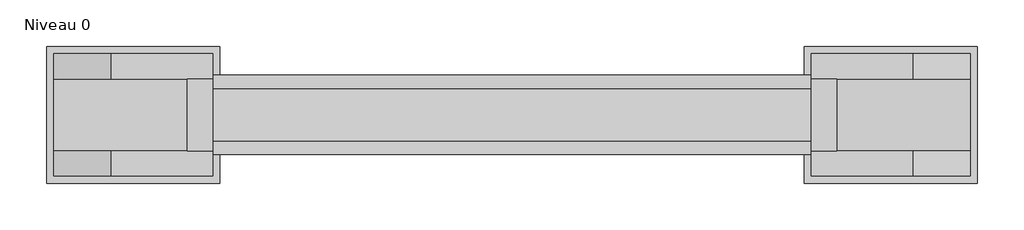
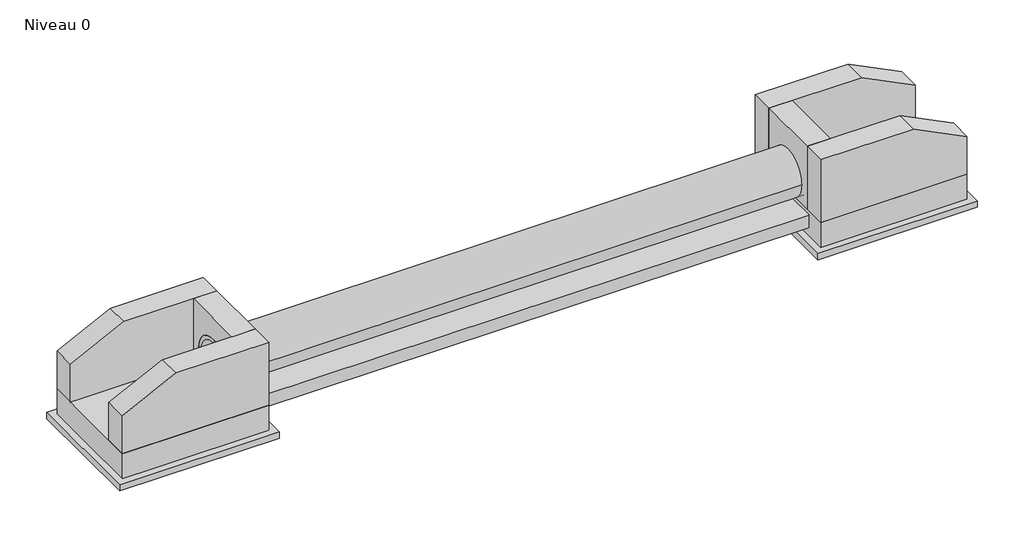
# One storey: 8 proxies.
"""IFC4 building model written with IfcOpenShell, lengths in millimetres."""

from ifc_helpers import new_model, si_unit, point, frame, frame_2d, origin, place, context, project, spatial, polyline, circle_curve, trimmed, segment, composite_curve, outline, extrude, transform, mapped, element, save
from ifc_brep_helpers import plane_surface, revolved_surface, advanced_brep
from components import generic_models_fbd42da7, generic_models_a69fad3e, generic_models_12d6a13c, generic_models_5fac37e3, generic_models_9c1f0b10

model = new_model("IFC4")

# Units and contexts
model_context = context("Model", 3, world=origin())
ifc_project = project(units=[si_unit("LENGTHUNIT", "METRE", prefix="MILLI")], contexts=[model_context])

# Site, building, storey
site = spatial("IfcSite", under=ifc_project)
building = spatial("IfcBuilding", under=site)
storey = spatial("IfcBuildingStorey", under=building, Name="Niveau 0", Elevation=0.0)

# Proxies
placement = place(None, origin())
element("IfcBuildingElementProxy", 1, Name="Modèles génériques 1 : Modèles génériques 1", ObjectType="Modèles génériques 1 : Modèles génériques 1", at=placement, inside=storey, context=model_context, shape_type="SweptSolid", body=[
    extrude(outline(composite_curve([segment(trimmed(circle_curve(frame_2d((2653.736413, 300.0)), 360.0), [point((2293.736413, 300.0))], [point((3013.736413, 300.0))], False, "CARTESIAN"), True, "CONTINUOUS"), segment(trimmed(circle_curve(frame_2d((2653.736413, 300.0)), 360.0), [point((3013.736413, 300.0))], [point((2293.736413, 300.0))], False, "CARTESIAN"), True, "CONTINUOUS")], self_intersect=False), holes=[composite_curve([segment(trimmed(circle_curve(frame_2d((2653.736413, 300.0)), 300.0), [point((2353.736413, 300.0))], [point((2953.736413, 300.0))], True, "CARTESIAN"), True, "CONTINUOUS"), segment(trimmed(circle_curve(frame_2d((2653.736413, 300.0)), 300.0), [point((2953.736413, 300.0))], [point((2353.736413, 300.0))], True, "CARTESIAN"), True, "CONTINUOUS")], self_intersect=False)]), frame((-7578.7993027, 0.0, 0.0), z_axis=(1.0, 0.0, 0.0), x_axis=(0.0, 1.0, 0.0)), (0.0, 0.0, 1.0), 9000.0),
])
element("IfcBuildingElementProxy", 2, Name="Modèles génériques 2 : Modèles génériques 2", ObjectType="Modèles génériques 2 : Modèles génériques 2", at=placement, inside=storey, context=model_context, shape_type="AdvancedBrep", body=[
    advanced_brep(
    [(-7228.7993027, 3503.736413, 0.0), (-9428.7993027, 3503.736413, 0.0), (-9428.7993027, 1803.736413, 0.0), (-7228.7993027, 1803.736413, 0.0), (-7228.7993027, 2454.7389256, 0.0), (-7578.7993027, 2454.7389256, 0.0), (-7578.7993027, 2653.736413, 0.0), (-7578.7993027, 2852.7339004, 0.0), (-7228.7993027, 2852.7339004, 0.0), (-7228.7993027, 3503.736413, -400.0), (-7228.7993027, 1803.736413, -400.0), (-9428.7993027, 1803.736413, -400.0), (-9428.7993027, 3503.736413, -400.0)],
    [
        (0, 1),
        (1, 2),
        (2, 3),
        (3, 4),
        (4, 5),
        (5, 6),
        (6, 7),
        (7, 8),
        (8, 0),
        (9, 10),
        (10, 11),
        (11, 12),
        (12, 9),
        (0, 9),
        (12, 1),
        (11, 2),
        (10, 3),
        (8, 4, circle_curve(frame((-7228.7993027, 2653.736413, 300.0), z_axis=(-1.0, 0.0, 0.0), x_axis=(0.0, 1.0, 0.0)), 360.0)),
        (5, 7, circle_curve(frame((-7578.7993027, 2653.736413, 300.0), z_axis=(1.0, 0.0, 0.0), x_axis=(0.0, 1.0, 0.0)), 360.0)),
    ],
    [
        plane_surface(frame((-7228.7993027, 3503.736413, 0.0), z_axis=(0.0, 0.0, 1.0), x_axis=(-1.0, 0.0, 0.0))),
        plane_surface(frame((-7228.7993027, 3503.736413, -400.0), z_axis=(0.0, 0.0, -1.0), x_axis=(1.0, 0.0, 0.0))),
        plane_surface(frame((-7228.7993027, 3503.736413, 0.0), z_axis=(0.0, 1.0, 0.0), x_axis=(0.0, 0.0, -1.0))),
        plane_surface(frame((-9428.7993027, 3503.736413, 0.0), z_axis=(-1.0, 0.0, 0.0), x_axis=(0.0, 0.0, -1.0))),
        plane_surface(frame((-9428.7993027, 1803.736413, 0.0), z_axis=(0.0, -1.0, 0.0), x_axis=(0.0, 0.0, -1.0))),
        plane_surface(frame((-7228.7993027, 1803.736413, 0.0), z_axis=(1.0, 0.0, 0.0), x_axis=(0.0, 0.0, -1.0))),
        plane_surface(frame((-7578.7993027, 2953.736413, 300.0), z_axis=(1.0, 0.0, 0.0), x_axis=(0.0, 0.0, 1.0))),
        revolved_surface(polyline([(-7228.7993027, 3013.736413, 300.0), (-7578.7993027, 3013.736413, 300.0)]), (-7228.7993027, 2653.736413, 300.0), (1.0, 0.0, 0.0)),
    ],
    [
        (0, [[1, 2, 3, 4, 5, 6, 7, 8, 9]]),
        (1, [[10, 11, 12, 13]]),
        (2, [[-1, 14, -13, 15]]),
        (3, [[-2, -15, -12, 16]]),
        (4, [[-3, -16, -11, 17]]),
        (5, [[-10, -14, -9, 18, -4, -17]]),
        (6, [[19, -7, -6]]),
        (7, [[-19, -5, -18, -8]]),
    ],
),
])
element("IfcBuildingElementProxy", 3, Name="Modèles génériques 3 : Modèles génériques 2", ObjectType="Modèles génériques 3 : Modèles génériques 2", at=placement, inside=storey, context=model_context, shape_type="SweptSolid", body=[
    extrude(outline(polyline([(1071.2006973, 3503.736413), (3271.2006973, 3503.736413), (3271.2006973, 1803.736413), (1071.2006973, 1803.736413), (1071.2006973, 3503.736413)])), frame((0.0, 0.0, -400.0), z_axis=(0.0, 0.0, 1.0), x_axis=(1.0, 0.0, 0.0)), (0.0, 0.0, 1.0), 400.0),
])
generic_models_shape = generic_models_fbd42da7(model_context)
element("IfcBuildingElementProxy", 4, Name="Modèles génériques 4 : Modèles génériques 4", ObjectType="Modèles génériques 4 : Modèles génériques 4", at=placement, inside=storey, context=model_context, shape_type="MappedRepresentation", body=[
    mapped(generic_models_shape, transform((0.0, 0.0, 0.0), x_axis=(1.0, 0.0, 0.0), y_axis=(0.0, 1.0, 0.0), z_axis=(0.0, 0.0, 1.0))),
])
generic_models_2_shape = generic_models_a69fad3e(model_context)
element("IfcBuildingElementProxy", 5, Name="Modèles génériques 5 : Modèles génériques 5", ObjectType="Modèles génériques 5 : Modèles génériques 5", at=placement, inside=storey, context=model_context, shape_type="MappedRepresentation", body=[
    mapped(generic_models_2_shape, transform((0.0, 0.0, 0.0), x_axis=(1.0, 0.0, 0.0), y_axis=(0.0, 1.0, 0.0), z_axis=(0.0, 0.0, 1.0))),
])
generic_models_3_shape = generic_models_12d6a13c(model_context)
element("IfcBuildingElementProxy", 6, Name="Modèles génériques 6 : Modèles génériques 5", ObjectType="Modèles génériques 6 : Modèles génériques 5", at=placement, inside=storey, context=model_context, shape_type="MappedRepresentation", body=[
    mapped(generic_models_3_shape, transform((0.0, 0.0, 0.0), x_axis=(1.0, 0.0, 0.0), y_axis=(0.0, 1.0, 0.0), z_axis=(0.0, 0.0, 1.0))),
])
generic_models_4_shape = generic_models_5fac37e3(model_context)
element("IfcBuildingElementProxy", 7, Name="Modèles génériques 7 : Modèles génériques 7", ObjectType="Modèles génériques 7 : Modèles génériques 7", at=placement, inside=storey, context=model_context, shape_type="MappedRepresentation", body=[
    mapped(generic_models_4_shape, transform((0.0, 0.0, 0.0), x_axis=(1.0, 0.0, 0.0), y_axis=(0.0, 1.0, 0.0), z_axis=(0.0, 0.0, 1.0))),
])
generic_models_5_shape = generic_models_9c1f0b10(model_context)
element("IfcBuildingElementProxy", 8, Name="Modèles génériques 8 : Modèles génériques 4", ObjectType="Modèles génériques 8 : Modèles génériques 4", at=placement, inside=storey, context=model_context, shape_type="MappedRepresentation", body=[
    mapped(generic_models_5_shape, transform((0.0, 0.0, 0.0), x_axis=(1.0, 0.0, 0.0), y_axis=(0.0, 1.0, 0.0), z_axis=(0.0, 0.0, 1.0))),
])

save(model, "model.ifc")
